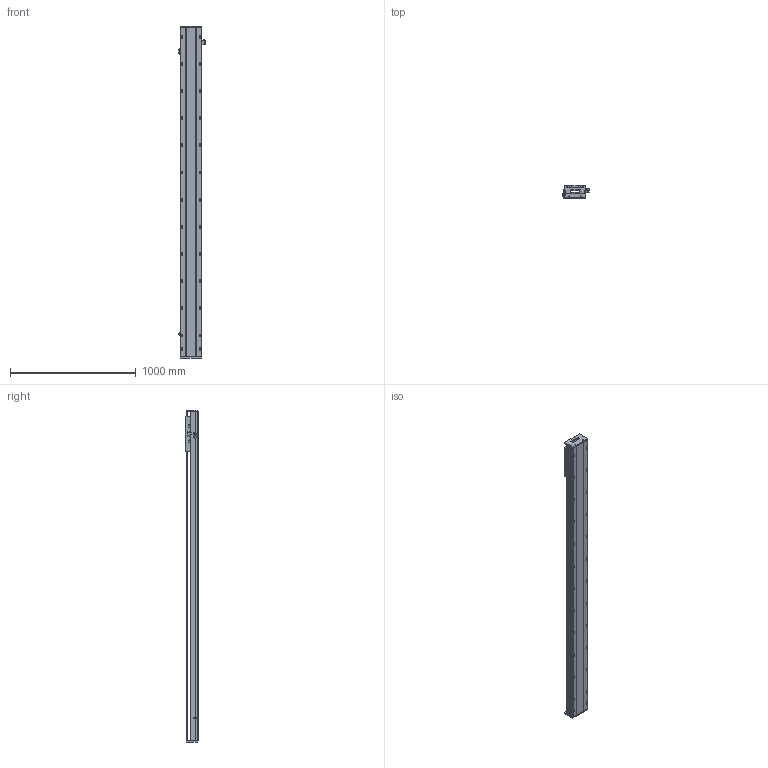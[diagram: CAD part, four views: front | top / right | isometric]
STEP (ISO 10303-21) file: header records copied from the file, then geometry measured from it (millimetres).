
FILE_DESCRIPTION (( 'STEP AP203' ), '1' );
FILE_NAME ('SKR17S-C2-S2260（简）.STEP', '2022-09-29T08:19:57', ( '' ), ( '' ), 'SwSTEP 2.0', 'SolidWorks 2018', '' );
FILE_SCHEMA (( 'CONFIG_CONTROL_DESIGN' ));
Length unit declared in the file: millimetre
Products named in the file (8): 棠掑假蚾輸; SKR17S-C2-S2260（简）; SIKO棠掑; 感应片（SKR12S-14S-17S）; SKR17滑台-280L（简）; EE-SX672; SKR17底座-C2-S2260（简); SKR17耜啣
Assembly tree (10 placements, depth 2):
  SKR17S-C2-S2260（简）
    SKR17底座-C2-S2260（简)
    SIKO棠掑
    EE-SX672  x3
    SKR17耜啣  x2
    棠掑假蚾輸
    SKR17滑台-280L（简）
    感应片（SKR12S-14S-17S）
Bounding box: 212.7 x 97 x 2640 mm (x, y, z)
Volume: 20461522.3 mm3; surface area: 2476319.3 mm2
Topology: 11 solids, 11 shells, 1432 faces, 4006 edges, 2570 vertices
Faces by surface type: cylinder 721, plane 565, cone 146
Entity records: 45091 total; most frequent: CARTESIAN_POINT 12399, ORIENTED_EDGE 6968, DIRECTION 6285, EDGE_CURVE 3484, VERTEX_POINT 2274, AXIS2_PLACEMENT_3D 2240, LINE 1805, VECTOR 1805
